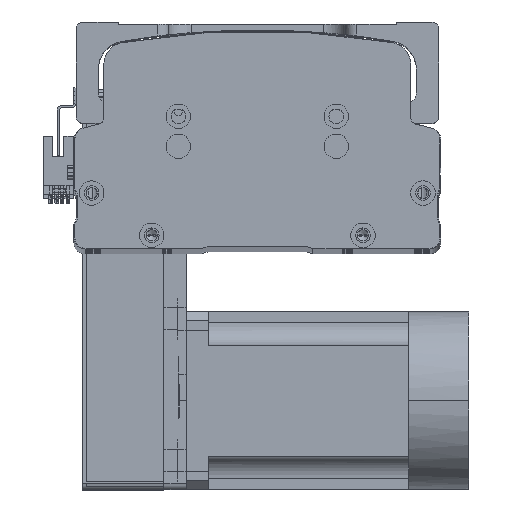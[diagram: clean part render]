
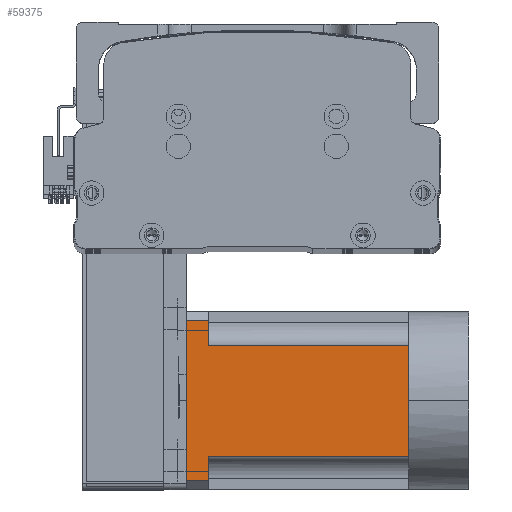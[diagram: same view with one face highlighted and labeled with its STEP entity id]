
A CAD part, top view. The second image highlights one B-rep face of the part: STEP entity #59375.
In plain terms, the highlighted planar face has unit normal (0, 0, 1) as drawn and (0, 0, -1) by its records, which use the part's own axes.
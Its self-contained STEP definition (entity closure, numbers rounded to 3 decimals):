
#318 = DIRECTION ( 'NONE',  ( -1., 0., 0. ) ) ;
#1553 = CARTESIAN_POINT ( 'NONE',  ( -40., 90., -40. ) ) ;
#2023 = ORIENTED_EDGE ( 'NONE', *, *, #52553, .T. ) ;
#2259 = CARTESIAN_POINT ( 'NONE',  ( -25., 0., -40. ) ) ;
#2719 = ORIENTED_EDGE ( 'NONE', *, *, #35273, .T. ) ;
#2788 = EDGE_CURVE ( 'NONE', #3972, #30092, #50762, .T. ) ;
#3943 = DIRECTION ( 'NONE',  ( 0., -1., 0. ) ) ;
#3972 = VERTEX_POINT ( 'NONE', #52495 ) ;
#4798 = FACE_OUTER_BOUND ( 'NONE', #5784, .T. ) ;
#5784 = EDGE_LOOP ( 'NONE', ( #13182, #10661, #26726, #24185, #2023, #21235, #2719, #24785, #8711 ) ) ;
#6052 = LINE ( 'NONE', #30295, #57154 ) ;
#6793 = EDGE_CURVE ( 'NONE', #3972, #30170, #43823, .T. ) ;
#7075 = CARTESIAN_POINT ( 'NONE',  ( 0., 0., -40. ) ) ;
#8711 = ORIENTED_EDGE ( 'NONE', *, *, #48954, .T. ) ;
#10482 = CARTESIAN_POINT ( 'NONE',  ( -40., 100., -40. ) ) ;
#10661 = ORIENTED_EDGE ( 'NONE', *, *, #6793, .T. ) ;
#11000 = LINE ( 'NONE', #41143, #36533 ) ;
#13030 = CARTESIAN_POINT ( 'NONE',  ( -40., 0., -40. ) ) ;
#13182 = ORIENTED_EDGE ( 'NONE', *, *, #2788, .F. ) ;
#15997 = PLANE ( 'NONE',  #58969 ) ;
#16669 = VECTOR ( 'NONE', #3943, 1000. ) ;
#17637 = EDGE_CURVE ( 'NONE', #19794, #63633, #61358, .T. ) ;
#18169 = DIRECTION ( 'NONE',  ( -1., 0., 0. ) ) ;
#18272 = CARTESIAN_POINT ( 'NONE',  ( 25., 0., -40. ) ) ;
#19794 = VERTEX_POINT ( 'NONE', #7075 ) ;
#20113 = VECTOR ( 'NONE', #40452, 1000. ) ;
#21235 = ORIENTED_EDGE ( 'NONE', *, *, #17637, .T. ) ;
#24185 = ORIENTED_EDGE ( 'NONE', *, *, #46490, .T. ) ;
#24785 = ORIENTED_EDGE ( 'NONE', *, *, #46169, .T. ) ;
#25133 = VECTOR ( 'NONE', #25608, 1000. ) ;
#25608 = DIRECTION ( 'NONE',  ( -1., 0., 0. ) ) ;
#26094 = LINE ( 'NONE', #42098, #50085 ) ;
#26212 = DIRECTION ( 'NONE',  ( -1., 0., 0. ) ) ;
#26726 = ORIENTED_EDGE ( 'NONE', *, *, #28757, .T. ) ;
#28757 = EDGE_CURVE ( 'NONE', #30170, #46838, #11000, .T. ) ;
#30092 = VERTEX_POINT ( 'NONE', #62834 ) ;
#30098 = CARTESIAN_POINT ( 'NONE',  ( -25., -27., -40. ) ) ;
#30170 = VERTEX_POINT ( 'NONE', #32897 ) ;
#30295 = CARTESIAN_POINT ( 'NONE',  ( -40., 0., -40. ) ) ;
#32897 = CARTESIAN_POINT ( 'NONE',  ( 36., 90., -40. ) ) ;
#33128 = CARTESIAN_POINT ( 'NONE',  ( -36., 90., -40. ) ) ;
#33315 = VERTEX_POINT ( 'NONE', #33128 ) ;
#34477 = CARTESIAN_POINT ( 'NONE',  ( 36., -27., -40. ) ) ;
#35273 = EDGE_CURVE ( 'NONE', #63633, #37350, #42532, .T. ) ;
#35456 = DIRECTION ( 'NONE',  ( -1., 0., 0. ) ) ;
#36533 = VECTOR ( 'NONE', #318, 1000. ) ;
#37249 = DIRECTION ( 'NONE',  ( -1., 0., 0. ) ) ;
#37350 = VERTEX_POINT ( 'NONE', #58364 ) ;
#40392 = DIRECTION ( 'NONE',  ( 0., 1., 0. ) ) ;
#40452 = DIRECTION ( 'NONE',  ( 0., 1., 0. ) ) ;
#40528 = VECTOR ( 'NONE', #37249, 1000. ) ;
#40688 = VERTEX_POINT ( 'NONE', #18272 ) ;
#41143 = CARTESIAN_POINT ( 'NONE',  ( -40., 90., -40. ) ) ;
#42098 = CARTESIAN_POINT ( 'NONE',  ( 25., -27., -40. ) ) ;
#42532 = LINE ( 'NONE', #30098, #56133 ) ;
#43823 = LINE ( 'NONE', #34477, #16669 ) ;
#44734 = CARTESIAN_POINT ( 'NONE',  ( 25., 90., -40. ) ) ;
#46169 = EDGE_CURVE ( 'NONE', #37350, #33315, #52528, .T. ) ;
#46490 = EDGE_CURVE ( 'NONE', #46838, #40688, #26094, .T. ) ;
#46838 = VERTEX_POINT ( 'NONE', #44734 ) ;
#47843 = VECTOR ( 'NONE', #18169, 1000. ) ;
#48954 = EDGE_CURVE ( 'NONE', #33315, #30092, #59232, .T. ) ;
#50085 = VECTOR ( 'NONE', #52162, 1000. ) ;
#50762 = LINE ( 'NONE', #10482, #25133 ) ;
#51709 = CARTESIAN_POINT ( 'NONE',  ( -40., -27., -40. ) ) ;
#52162 = DIRECTION ( 'NONE',  ( 0., -1., 0. ) ) ;
#52495 = CARTESIAN_POINT ( 'NONE',  ( 36., 100., -40. ) ) ;
#52528 = LINE ( 'NONE', #1553, #40528 ) ;
#52553 = EDGE_CURVE ( 'NONE', #40688, #19794, #6052, .T. ) ;
#56133 = VECTOR ( 'NONE', #40392, 1000. ) ;
#56822 = DIRECTION ( 'NONE',  ( 0., 0., -1. ) ) ;
#57154 = VECTOR ( 'NONE', #35456, 1000. ) ;
#58364 = CARTESIAN_POINT ( 'NONE',  ( -25., 90., -40. ) ) ;
#58969 = AXIS2_PLACEMENT_3D ( 'NONE', #51709, #56822, #26212 ) ;
#59232 = LINE ( 'NONE', #60722, #20113 ) ;
#59375 = ADVANCED_FACE ( 'NONE', ( #4798 ), #15997, .T. ) ;
#60722 = CARTESIAN_POINT ( 'NONE',  ( -36., -27., -40. ) ) ;
#61358 = LINE ( 'NONE', #13030, #47843 ) ;
#62834 = CARTESIAN_POINT ( 'NONE',  ( -36., 100., -40. ) ) ;
#63633 = VERTEX_POINT ( 'NONE', #2259 ) ;
